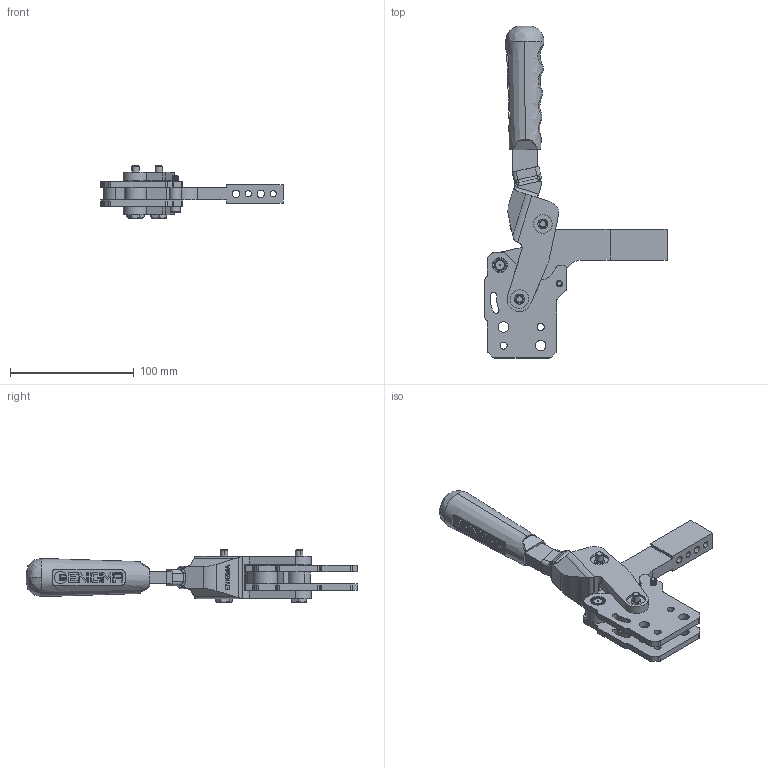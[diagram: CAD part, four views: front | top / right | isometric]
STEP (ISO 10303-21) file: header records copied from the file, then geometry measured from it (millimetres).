
FILE_DESCRIPTION (( 'STEP AP203' ), '1' );
FILE_NAME ('1573_D.STEP', '2022-12-02T09:49:28', ( '' ), ( '' ), 'SwSTEP 2.0', 'SolidWorks 2023', '' );
FILE_SCHEMA (( 'CONFIG_CONTROL_DESIGN' ));
Length unit declared in the file: millimetre
Products named in the file (13): Burc_1503_12x8x5_Varsay_X2_0131_X0_lan_1; 1533_cap5x10_on paralel burc_Varsay_X2_0131_X0_lan_1; S_M5x25_A_X2_0130_X0_C(_X2_0130_X0_MBUS_C_X2_0130_X0_VATA)_1; 1573_D; 1533_hareket kolu_Varsay_X2_0131_X0_lan_1; 1533_Cap8x20 T_X2_0131_X0_rt_X2_0131_X0_ll_X2_0131_X0_ Pim_Varsay_X2_0131_X0_lan_1; O_M6x_X2_00d8_X0_8x30_YAC(M6_OTOMAT_YAY_ASKI_C_X2_0130_X0_VATASI)_1; 1533_mafsal_Varsay_X2_0131_X0_lan_1; Fizibilite_Bask_X2_0131_X0__Kolu_Varsay_X2_0131_X0_lan_1; 1533_dovme mafsal_Varsay_X2_0131_X0_lan_1; 1533_cap8x18_ara mesafe burcu_Varsay_X2_0131_X0_lan_1; C100_Yeni_Tutamak_8x20_Varsay_X2_0131_X0_lan_1; AS_3_D_G_Varsay_X2_0131_X0_lan
Assembly tree (24 placements, depth 2):
  1573_D
    AS_3_D_G_Varsay_X2_0131_X0_lan  x2
    1533_cap5x10_on paralel burc_Varsay_X2_0131_X0_lan_1
    1533_cap8x18_ara mesafe burcu_Varsay_X2_0131_X0_lan_1  x2
    1533_Cap8x20 T_X2_0131_X0_rt_X2_0131_X0_ll_X2_0131_X0_ Pim_Varsay_X2_0131_X0_lan_1  x2
    1533_dovme mafsal_Varsay_X2_0131_X0_lan_1
    1533_hareket kolu_Varsay_X2_0131_X0_lan_1
    1533_mafsal_Varsay_X2_0131_X0_lan_1  x2
    Burc_1503_12x8x5_Varsay_X2_0131_X0_lan_1  x8
    Fizibilite_Bask_X2_0131_X0__Kolu_Varsay_X2_0131_X0_lan_1
    O_M6x_X2_00d8_X0_8x30_YAC(M6_OTOMAT_YAY_ASKI_C_X2_0130_X0_VATASI)_1  x2
    S_M5x25_A_X2_0130_X0_C(_X2_0130_X0_MBUS_C_X2_0130_X0_VATA)_1
    C100_Yeni_Tutamak_8x20_Varsay_X2_0131_X0_lan_1
Bounding box: 147 x 267.99 x 42.5 mm (x, y, z)
Volume: 215754 mm3; surface area: 88460 mm2
Topology: 23 solids, 27 shells, 1897 faces, 5090 edges, 3348 vertices
Faces by surface type: plane 1327, cylinder 337, cone 138, bspline 95
Entity records: 49053 total; most frequent: CARTESIAN_POINT 23327, ORIENTED_EDGE 5224, DIRECTION 4605, EDGE_CURVE 2672, VERTEX_POINT 1769, VECTOR 1653, LINE 1653, AXIS2_PLACEMENT_3D 1476
